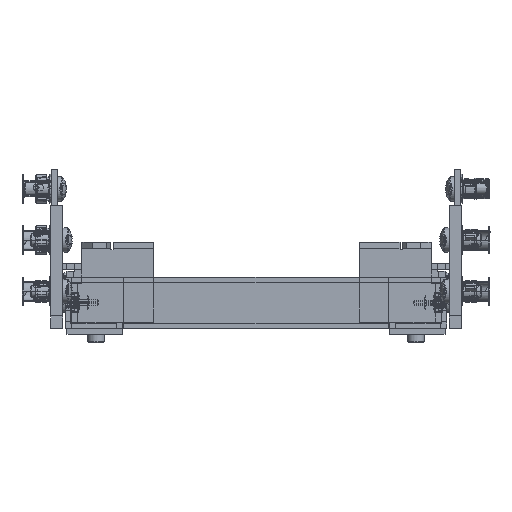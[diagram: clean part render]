
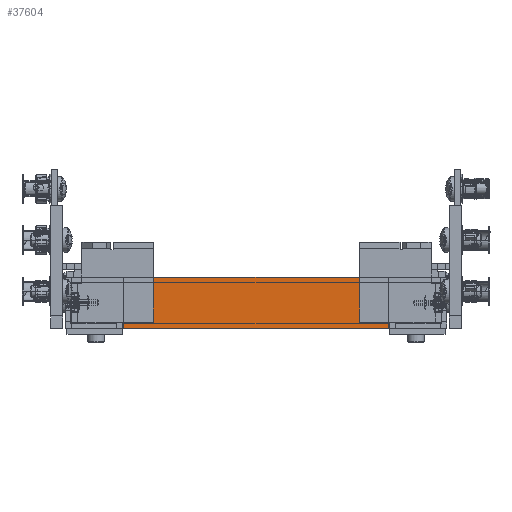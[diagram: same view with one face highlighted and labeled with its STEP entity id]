
A CAD part, front view. The second image highlights one B-rep face of the part: STEP entity #37604.
In plain terms, the highlighted planar face has unit normal (0, -1, 0) as drawn and (-1, 0, 0) by its records, which use the part's own axes.
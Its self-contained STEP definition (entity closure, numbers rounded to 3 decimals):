
#1161 = EDGE_CURVE ( 'NONE', #60022, #25106, #5500, .T. ) ;
#1329 = EDGE_LOOP ( 'NONE', ( #36025, #26924, #4132, #12195, #71524, #20785, #47475, #37878 ) ) ;
#1875 = CARTESIAN_POINT ( 'NONE',  ( -841.51, 64.5, 2.5 ) ) ;
#2637 = VECTOR ( 'NONE', #59480, 1000. ) ;
#4132 = ORIENTED_EDGE ( 'NONE', *, *, #11868, .F. ) ;
#4589 = DIRECTION ( 'NONE',  ( 0., 0., 1. ) ) ;
#4873 = EDGE_CURVE ( 'NONE', #19396, #60022, #84286, .T. ) ;
#5306 = EDGE_CURVE ( 'NONE', #45272, #25106, #17386, .T. ) ;
#5500 = LINE ( 'NONE', #61186, #60679 ) ;
#5809 = LINE ( 'NONE', #76090, #19990 ) ;
#6713 = DIRECTION ( 'NONE',  ( 0., 0., 1. ) ) ;
#8072 = CARTESIAN_POINT ( 'NONE',  ( -841.51, 64.5, 3.1 ) ) ;
#8518 = VERTEX_POINT ( 'NONE', #10951 ) ;
#9720 = CARTESIAN_POINT ( 'NONE',  ( -841.51, 64.5, 0. ) ) ;
#10443 = LINE ( 'NONE', #25015, #28789 ) ;
#10931 = AXIS2_PLACEMENT_3D ( 'NONE', #1875, #43875, #84954 ) ;
#10951 = CARTESIAN_POINT ( 'NONE',  ( -841.51, 64.5, 21.9 ) ) ;
#11868 = EDGE_CURVE ( 'NONE', #77673, #68125, #87428, .T. ) ;
#12195 = ORIENTED_EDGE ( 'NONE', *, *, #44308, .F. ) ;
#15125 = PLANE ( 'NONE',  #10931 ) ;
#17386 = LINE ( 'NONE', #31083, #43585 ) ;
#19396 = VERTEX_POINT ( 'NONE', #45237 ) ;
#19990 = VECTOR ( 'NONE', #6713, 1000. ) ;
#20785 = ORIENTED_EDGE ( 'NONE', *, *, #4873, .T. ) ;
#25015 = CARTESIAN_POINT ( 'NONE',  ( -841.51, -64.5, 2.5 ) ) ;
#25106 = VERTEX_POINT ( 'NONE', #45845 ) ;
#26924 = ORIENTED_EDGE ( 'NONE', *, *, #57521, .T. ) ;
#28456 = CARTESIAN_POINT ( 'NONE',  ( -841.51, -64.5, 21.9 ) ) ;
#28789 = VECTOR ( 'NONE', #38282, 1000. ) ;
#30967 = CARTESIAN_POINT ( 'NONE',  ( -841.51, -64.5, 3.1 ) ) ;
#31083 = CARTESIAN_POINT ( 'NONE',  ( -841.51, -64.5, 2.5 ) ) ;
#36025 = ORIENTED_EDGE ( 'NONE', *, *, #44245, .T. ) ;
#37058 = DIRECTION ( 'NONE',  ( 0., 0., -1. ) ) ;
#37604 = ADVANCED_FACE ( 'NONE', ( #43429 ), #15125, .F. ) ;
#37786 = CARTESIAN_POINT ( 'NONE',  ( -841.51, 64.5, 25. ) ) ;
#37878 = ORIENTED_EDGE ( 'NONE', *, *, #5306, .F. ) ;
#38282 = DIRECTION ( 'NONE',  ( 0., 0., 1. ) ) ;
#40186 = CARTESIAN_POINT ( 'NONE',  ( -841.51, -64.5, 21.9 ) ) ;
#42635 = VECTOR ( 'NONE', #59604, 1000. ) ;
#43429 = FACE_OUTER_BOUND ( 'NONE', #1329, .T. ) ;
#43585 = VECTOR ( 'NONE', #37058, 1000. ) ;
#43875 = DIRECTION ( 'NONE',  ( 1., 0., 0. ) ) ;
#44245 = EDGE_CURVE ( 'NONE', #45272, #81952, #10443, .T. ) ;
#44308 = EDGE_CURVE ( 'NONE', #8518, #77673, #5809, .T. ) ;
#45237 = CARTESIAN_POINT ( 'NONE',  ( -841.51, 64.5, 3.1 ) ) ;
#45272 = VERTEX_POINT ( 'NONE', #30967 ) ;
#45845 = CARTESIAN_POINT ( 'NONE',  ( -841.51, -64.5, 0. ) ) ;
#47475 = ORIENTED_EDGE ( 'NONE', *, *, #1161, .T. ) ;
#52189 = CARTESIAN_POINT ( 'NONE',  ( -841.51, 64.5, 2.5 ) ) ;
#57521 = EDGE_CURVE ( 'NONE', #81952, #68125, #66253, .T. ) ;
#59480 = DIRECTION ( 'NONE',  ( 0., 0., -1. ) ) ;
#59604 = DIRECTION ( 'NONE',  ( 0., -1., 0. ) ) ;
#60022 = VERTEX_POINT ( 'NONE', #9720 ) ;
#60679 = VECTOR ( 'NONE', #89004, 1000. ) ;
#61186 = CARTESIAN_POINT ( 'NONE',  ( -841.51, -90.5, 0. ) ) ;
#64692 = CARTESIAN_POINT ( 'NONE',  ( -841.51, 64.5, 25. ) ) ;
#65000 = DIRECTION ( 'NONE',  ( 0., 0., -1. ) ) ;
#66253 = LINE ( 'NONE', #40186, #75950 ) ;
#68125 = VERTEX_POINT ( 'NONE', #82355 ) ;
#71524 = ORIENTED_EDGE ( 'NONE', *, *, #87884, .T. ) ;
#73176 = LINE ( 'NONE', #52189, #75782 ) ;
#75782 = VECTOR ( 'NONE', #65000, 1000. ) ;
#75950 = VECTOR ( 'NONE', #4589, 1000. ) ;
#76090 = CARTESIAN_POINT ( 'NONE',  ( -841.51, 64.5, 2.5 ) ) ;
#77673 = VERTEX_POINT ( 'NONE', #37786 ) ;
#81952 = VERTEX_POINT ( 'NONE', #28456 ) ;
#82355 = CARTESIAN_POINT ( 'NONE',  ( -841.51, -64.5, 25. ) ) ;
#84286 = LINE ( 'NONE', #8072, #2637 ) ;
#84954 = DIRECTION ( 'NONE',  ( 0., 0., -1. ) ) ;
#87428 = LINE ( 'NONE', #64692, #42635 ) ;
#87884 = EDGE_CURVE ( 'NONE', #8518, #19396, #73176, .T. ) ;
#89004 = DIRECTION ( 'NONE',  ( 0., -1., 0. ) ) ;
